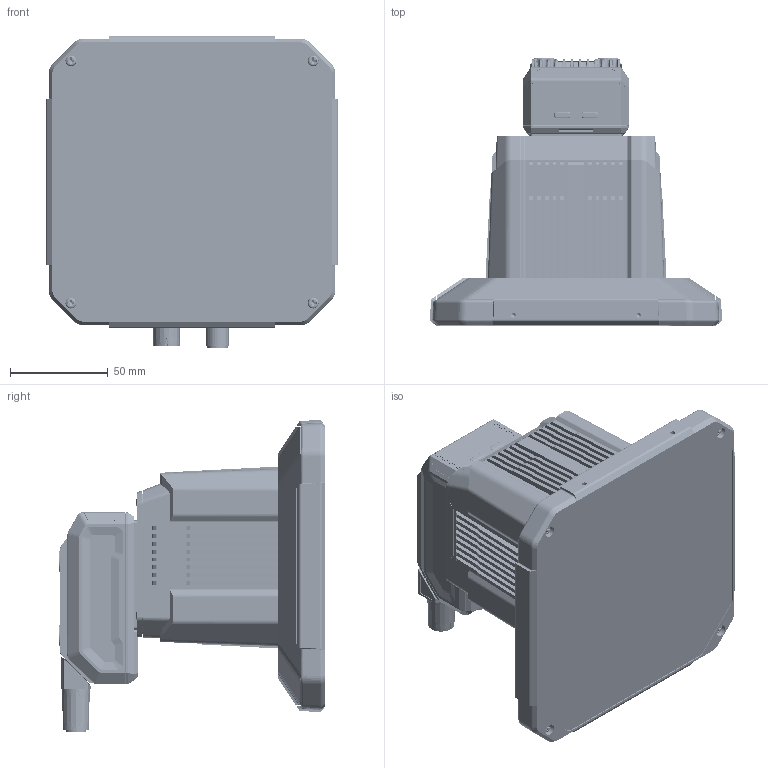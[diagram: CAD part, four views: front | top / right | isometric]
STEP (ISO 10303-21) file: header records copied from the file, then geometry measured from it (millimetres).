
FILE_DESCRIPTION((''),'2;1');
FILE_NAME('00-ID5050XM-DPM-ASSY_ASM_1','2026-04-27T16:48:42',('huguozhe'),(''),'CREO PARAMETRIC BY PTC INC, 2020044','CREO PARAMETRIC BY PTC INC, 2020044','');
FILE_SCHEMA(('AUTOMOTIVE_DESIGN { 1 0 10303 214 1 1 1 1 }'));
Products named in the file (1): 00-ID5050XM-DPM-ASSY_ASM_1
Bounding box: 149.29 x 136.6 x 159.51 mm (x, y, z)
Volume: 898274.5 mm3; surface area: 265093.4 mm2
Topology: 2 solids, 177 shells, 6712 faces, 17274 edges, 10744 vertices
Faces by surface type: plane 2458, cylinder 2353, cone 648, bspline 584, torus 530, revolution 54, extrusion 45, sphere 40
Entity records: 302884 total; most frequent: CARTESIAN_POINT 122329, ORIENTED_EDGE 33850, DIRECTION 31688, EDGE_CURVE 17109, AXIS2_PLACEMENT_3D 11731, VERTEX_POINT 10744, VECTOR 8172, LINE 8127
